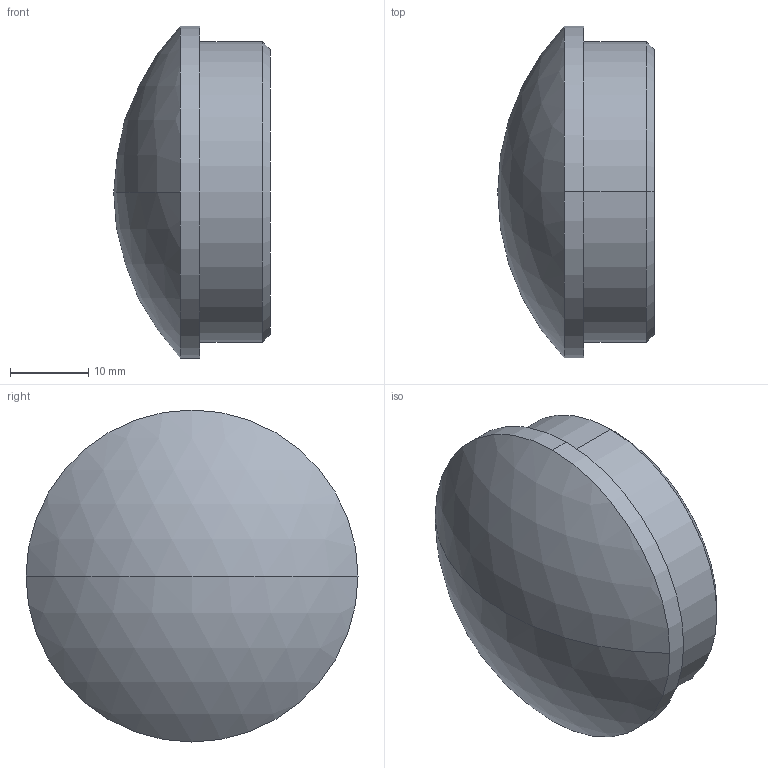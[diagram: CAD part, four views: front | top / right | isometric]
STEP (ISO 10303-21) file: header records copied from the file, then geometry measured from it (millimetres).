
FILE_DESCRIPTION (( 'STEP AP203' ), '1' );
FILE_NAME ('3D_GR1392_DN42.4x2_18380238.STEP', '2024-09-21T10:20:11', ( '' ), ( '' ), 'SwSTEP 2.0', 'SolidWorks 2024', '' );
FILE_SCHEMA (( 'CONFIG_CONTROL_DESIGN' ));
Length unit declared in the file: millimetre
Products named in the file (1): 3D_GR1392_DN42.4x2_18380238
Bounding box: 20 x 42.4 x 42.4 mm (x, y, z)
Volume: 20216 mm3; surface area: 4397.7 mm2
Topology: 1 solids, 1 shells, 10 faces, 20 edges, 13 vertices
Faces by surface type: cylinder 4, cone 2, sphere 2, plane 2
Entity records: 347 total; most frequent: DIRECTION 56, CARTESIAN_POINT 44, ORIENTED_EDGE 40, AXIS2_PLACEMENT_3D 25, EDGE_CURVE 20, CIRCLE 14, VERTEX_POINT 13, EDGE_LOOP 11
